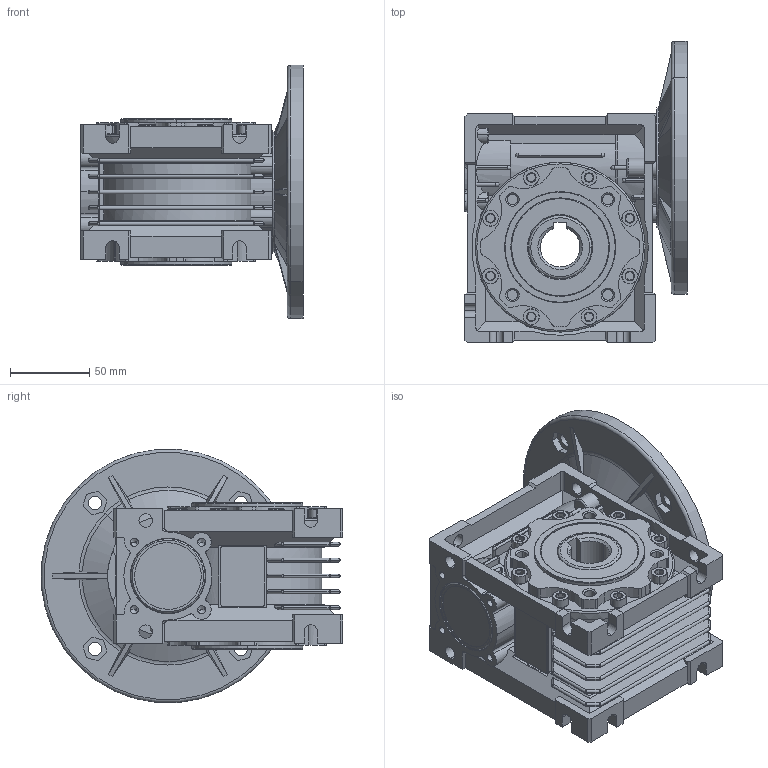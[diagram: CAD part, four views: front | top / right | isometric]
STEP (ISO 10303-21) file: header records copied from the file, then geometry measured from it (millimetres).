
FILE_DESCRIPTION(('STEP AP214'),'1');
FILE_NAME('NMRV050-71B5.stp','2020-07-27T02:02:16',(' '),(' '),'Spatial InterOp 3D',' ',' ');
FILE_SCHEMA(('automotive_design'));
Length unit declared in the file: millimetre
Products named in the file (12): 零件1; 零件2; 零件3; 零件4; 零件5; 零件6; 零件7; 零件8; 零件9; 零件10; 零件11; 零件12
Bounding box: 140 x 189.7 x 159.39 mm (x, y, z)
Volume: 1134751.3 mm3; surface area: 237377 mm2
Topology: 12 solids, 18 shells, 1333 faces, 3551 edges, 2253 vertices
Faces by surface type: plane 545, cylinder 526, cone 112, torus 111, sphere 32, bspline 7
Entity records: 57084 total; most frequent: CARTESIAN_POINT 12634, DIRECTION 7286, ORIENTED_EDGE 7022, EDGE_CURVE 3511, AXIS2_PLACEMENT_3D 2731, VERTEX_POINT 2253, LINE 1824, VECTOR 1824
